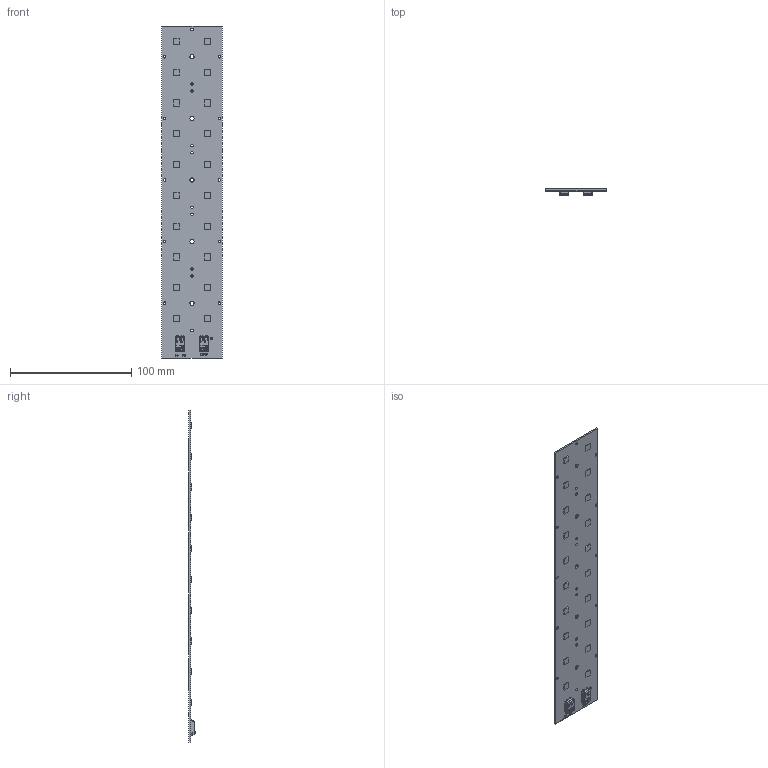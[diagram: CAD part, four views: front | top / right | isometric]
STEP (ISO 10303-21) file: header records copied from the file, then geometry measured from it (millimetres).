
FILE_DESCRIPTION(/* description */ ('Unknown'),/* implementation_level */ '2;1');
FILE_NAME(/* name */ 'RecLED 274x50mm 2x10 5050 sh-000 2024-01-23',/* time_stamp */ '2024-01-23T10:02:40+01:00',/* author */ ('Unknown'),/* organization */ ('Unknown'),/* preprocessor_version */ 'ST-DEVELOPER v18.102',/* originating_system */ 'Solid Edge',/* authorisation */ 'Unknown');
FILE_SCHEMA (('AUTOMOTIVE_DESIGN {1 0 10303 214 3 1 1}'));
Length unit declared in the file: millimetre
Products named in the file (1): RecLED 274x50mm 2x10 5050 sh-000 2024-01-23
Bounding box: 49.5 x 4.95 x 273.8 mm (x, y, z)
Volume: 21001.5 mm3; surface area: 29110.6 mm2
Topology: 1 solids, 1 shells, 1056 faces, 2763 edges, 1737 vertices
Faces by surface type: plane 523, cylinder 269, torus 104, cone 88, bspline 52, sphere 20
Full cylindrical faces by diameter (mm): 2.1 x20, 3.5 x5
Entity records: 40960 total; most frequent: CARTESIAN_POINT 9518, ORIENTED_EDGE 5350, DIRECTION 4276, EDGE_CURVE 2675, VERTEX_POINT 1702, AXIS2_PLACEMENT_3D 1433, LINE 1410, VECTOR 1410
